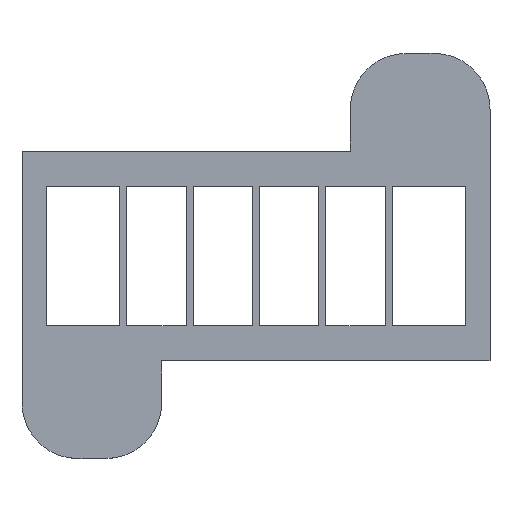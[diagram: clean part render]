
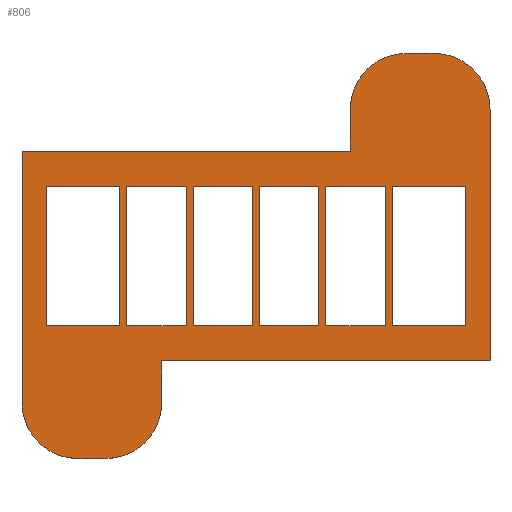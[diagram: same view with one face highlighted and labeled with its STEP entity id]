
A CAD part, top view. The second image highlights one B-rep face of the part: STEP entity #806.
In plain terms, the highlighted planar face has unit normal (0, 0, 1).
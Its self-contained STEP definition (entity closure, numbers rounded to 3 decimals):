
#16=FACE_BOUND('',#124,.T.);
#17=FACE_BOUND('',#125,.T.);
#18=FACE_BOUND('',#126,.T.);
#19=FACE_BOUND('',#127,.T.);
#20=FACE_BOUND('',#128,.T.);
#21=FACE_BOUND('',#129,.T.);
#52=PLANE('',#863);
#87=FACE_OUTER_BOUND('',#123,.T.);
#123=EDGE_LOOP('',(#732,#733,#734,#735,#736,#737,#738,#739,#740,#741,#742,
#743));
#124=EDGE_LOOP('',(#744,#745,#746,#747));
#125=EDGE_LOOP('',(#748,#749,#750,#751));
#126=EDGE_LOOP('',(#752,#753,#754,#755));
#127=EDGE_LOOP('',(#756,#757,#758,#759));
#128=EDGE_LOOP('',(#760,#761,#762,#763));
#129=EDGE_LOOP('',(#764,#765,#766,#767));
#136=LINE('',#1080,#242);
#140=LINE('',#1089,#246);
#144=LINE('',#1097,#250);
#151=LINE('',#1119,#257);
#155=LINE('',#1128,#261);
#159=LINE('',#1136,#265);
#182=LINE('',#1189,#288);
#185=LINE('',#1194,#291);
#188=LINE('',#1199,#294);
#191=LINE('',#1204,#297);
#194=LINE('',#1209,#300);
#197=LINE('',#1214,#303);
#199=LINE('',#1218,#305);
#201=LINE('',#1222,#307);
#203=LINE('',#1226,#309);
#205=LINE('',#1230,#311);
#213=LINE('',#1243,#319);
#215=LINE('',#1247,#321);
#217=LINE('',#1251,#323);
#219=LINE('',#1255,#325);
#220=LINE('',#1256,#326);
#221=LINE('',#1258,#327);
#223=LINE('',#1260,#329);
#225=LINE('',#1264,#331);
#227=LINE('',#1267,#333);
#229=LINE('',#1270,#335);
#230=LINE('',#1272,#336);
#231=LINE('',#1274,#337);
#232=LINE('',#1276,#338);
#233=LINE('',#1278,#339);
#234=LINE('',#1280,#340);
#235=LINE('',#1282,#341);
#242=VECTOR('',#884,10.);
#246=VECTOR('',#894,10.);
#250=VECTOR('',#900,10.);
#257=VECTOR('',#919,10.);
#261=VECTOR('',#929,10.);
#265=VECTOR('',#935,10.);
#288=VECTOR('',#970,10.);
#291=VECTOR('',#973,10.);
#294=VECTOR('',#976,10.);
#297=VECTOR('',#979,10.);
#300=VECTOR('',#982,10.);
#303=VECTOR('',#985,10.);
#305=VECTOR('',#989,10.);
#307=VECTOR('',#993,10.);
#309=VECTOR('',#997,10.);
#311=VECTOR('',#1001,10.);
#319=VECTOR('',#1013,10.);
#321=VECTOR('',#1017,10.);
#323=VECTOR('',#1021,10.);
#325=VECTOR('',#1025,10.);
#326=VECTOR('',#1026,10.);
#327=VECTOR('',#1027,10.);
#329=VECTOR('',#1029,10.);
#331=VECTOR('',#1031,10.);
#333=VECTOR('',#1033,10.);
#335=VECTOR('',#1037,10.);
#336=VECTOR('',#1040,10.);
#337=VECTOR('',#1043,10.);
#338=VECTOR('',#1046,10.);
#339=VECTOR('',#1049,10.);
#340=VECTOR('',#1052,10.);
#341=VECTOR('',#1055,10.);
#342=CIRCLE('',#822,8.);
#345=CIRCLE('',#828,8.);
#346=CIRCLE('',#832,8.);
#349=CIRCLE('',#838,8.);
#350=VERTEX_POINT('',#1060);
#351=VERTEX_POINT('',#1061);
#358=VERTEX_POINT('',#1079);
#359=VERTEX_POINT('',#1083);
#360=VERTEX_POINT('',#1087);
#363=VERTEX_POINT('',#1095);
#364=VERTEX_POINT('',#1099);
#365=VERTEX_POINT('',#1100);
#372=VERTEX_POINT('',#1118);
#373=VERTEX_POINT('',#1122);
#374=VERTEX_POINT('',#1126);
#377=VERTEX_POINT('',#1134);
#400=VERTEX_POINT('',#1186);
#401=VERTEX_POINT('',#1188);
#402=VERTEX_POINT('',#1191);
#403=VERTEX_POINT('',#1193);
#404=VERTEX_POINT('',#1196);
#405=VERTEX_POINT('',#1198);
#406=VERTEX_POINT('',#1201);
#407=VERTEX_POINT('',#1203);
#408=VERTEX_POINT('',#1206);
#409=VERTEX_POINT('',#1208);
#410=VERTEX_POINT('',#1211);
#411=VERTEX_POINT('',#1213);
#412=VERTEX_POINT('',#1217);
#413=VERTEX_POINT('',#1221);
#414=VERTEX_POINT('',#1225);
#415=VERTEX_POINT('',#1229);
#418=VERTEX_POINT('',#1241);
#419=VERTEX_POINT('',#1245);
#420=VERTEX_POINT('',#1249);
#421=VERTEX_POINT('',#1253);
#422=VERTEX_POINT('',#1257);
#423=VERTEX_POINT('',#1261);
#424=VERTEX_POINT('',#1263);
#425=VERTEX_POINT('',#1266);
#426=EDGE_CURVE('',#350,#351,#342,.T.);
#435=EDGE_CURVE('',#351,#358,#136,.T.);
#437=EDGE_CURVE('',#358,#359,#345,.T.);
#440=EDGE_CURVE('',#360,#350,#140,.T.);
#444=EDGE_CURVE('',#360,#363,#144,.T.);
#445=EDGE_CURVE('',#364,#365,#346,.T.);
#454=EDGE_CURVE('',#365,#372,#151,.T.);
#456=EDGE_CURVE('',#372,#373,#349,.T.);
#459=EDGE_CURVE('',#374,#364,#155,.T.);
#463=EDGE_CURVE('',#374,#377,#159,.T.);
#486=EDGE_CURVE('',#401,#400,#182,.T.);
#489=EDGE_CURVE('',#403,#402,#185,.T.);
#492=EDGE_CURVE('',#405,#404,#188,.T.);
#495=EDGE_CURVE('',#407,#406,#191,.T.);
#498=EDGE_CURVE('',#409,#408,#194,.T.);
#501=EDGE_CURVE('',#411,#410,#197,.T.);
#503=EDGE_CURVE('',#412,#409,#199,.T.);
#505=EDGE_CURVE('',#413,#407,#201,.T.);
#507=EDGE_CURVE('',#414,#405,#203,.T.);
#509=EDGE_CURVE('',#415,#401,#205,.T.);
#517=EDGE_CURVE('',#404,#418,#213,.T.);
#519=EDGE_CURVE('',#408,#419,#215,.T.);
#521=EDGE_CURVE('',#410,#420,#217,.T.);
#523=EDGE_CURVE('',#420,#421,#219,.T.);
#524=EDGE_CURVE('',#419,#412,#220,.T.);
#525=EDGE_CURVE('',#422,#413,#221,.T.);
#527=EDGE_CURVE('',#418,#414,#223,.T.);
#529=EDGE_CURVE('',#424,#423,#225,.T.);
#531=EDGE_CURVE('',#425,#415,#227,.T.);
#533=EDGE_CURVE('',#421,#411,#229,.T.);
#534=EDGE_CURVE('',#406,#422,#230,.T.);
#535=EDGE_CURVE('',#400,#425,#231,.T.);
#536=EDGE_CURVE('',#402,#424,#232,.T.);
#537=EDGE_CURVE('',#423,#403,#233,.T.);
#538=EDGE_CURVE('',#377,#359,#234,.T.);
#539=EDGE_CURVE('',#363,#373,#235,.T.);
#732=ORIENTED_EDGE('',*,*,#426,.F.);
#733=ORIENTED_EDGE('',*,*,#440,.F.);
#734=ORIENTED_EDGE('',*,*,#444,.T.);
#735=ORIENTED_EDGE('',*,*,#539,.T.);
#736=ORIENTED_EDGE('',*,*,#456,.F.);
#737=ORIENTED_EDGE('',*,*,#454,.F.);
#738=ORIENTED_EDGE('',*,*,#445,.F.);
#739=ORIENTED_EDGE('',*,*,#459,.F.);
#740=ORIENTED_EDGE('',*,*,#463,.T.);
#741=ORIENTED_EDGE('',*,*,#538,.T.);
#742=ORIENTED_EDGE('',*,*,#437,.F.);
#743=ORIENTED_EDGE('',*,*,#435,.F.);
#744=ORIENTED_EDGE('',*,*,#537,.T.);
#745=ORIENTED_EDGE('',*,*,#489,.T.);
#746=ORIENTED_EDGE('',*,*,#536,.T.);
#747=ORIENTED_EDGE('',*,*,#529,.T.);
#748=ORIENTED_EDGE('',*,*,#509,.T.);
#749=ORIENTED_EDGE('',*,*,#486,.T.);
#750=ORIENTED_EDGE('',*,*,#535,.T.);
#751=ORIENTED_EDGE('',*,*,#531,.T.);
#752=ORIENTED_EDGE('',*,*,#505,.T.);
#753=ORIENTED_EDGE('',*,*,#495,.T.);
#754=ORIENTED_EDGE('',*,*,#534,.T.);
#755=ORIENTED_EDGE('',*,*,#525,.T.);
#756=ORIENTED_EDGE('',*,*,#533,.T.);
#757=ORIENTED_EDGE('',*,*,#501,.T.);
#758=ORIENTED_EDGE('',*,*,#521,.T.);
#759=ORIENTED_EDGE('',*,*,#523,.T.);
#760=ORIENTED_EDGE('',*,*,#503,.T.);
#761=ORIENTED_EDGE('',*,*,#498,.T.);
#762=ORIENTED_EDGE('',*,*,#519,.T.);
#763=ORIENTED_EDGE('',*,*,#524,.T.);
#764=ORIENTED_EDGE('',*,*,#507,.T.);
#765=ORIENTED_EDGE('',*,*,#492,.T.);
#766=ORIENTED_EDGE('',*,*,#517,.T.);
#767=ORIENTED_EDGE('',*,*,#527,.T.);
#806=ADVANCED_FACE('',(#87,#16,#17,#18,#19,#20,#21),#52,.T.);
#822=AXIS2_PLACEMENT_3D('',#1062,#868,#869);
#828=AXIS2_PLACEMENT_3D('',#1084,#888,#889);
#832=AXIS2_PLACEMENT_3D('',#1101,#903,#904);
#838=AXIS2_PLACEMENT_3D('',#1123,#923,#924);
#863=AXIS2_PLACEMENT_3D('',#1283,#1056,#1057);
#868=DIRECTION('center_axis',(0.,0.,-1.));
#869=DIRECTION('ref_axis',(-0.707,0.707,0.));
#884=DIRECTION('',(1.,0.,0.));
#888=DIRECTION('center_axis',(0.,0.,-1.));
#889=DIRECTION('ref_axis',(0.707,0.707,0.));
#894=DIRECTION('',(0.,1.,0.));
#900=DIRECTION('',(-1.,0.,0.));
#903=DIRECTION('center_axis',(0.,0.,-1.));
#904=DIRECTION('ref_axis',(0.707,-0.707,0.));
#919=DIRECTION('',(-1.,0.,0.));
#923=DIRECTION('center_axis',(0.,0.,-1.));
#924=DIRECTION('ref_axis',(-0.707,-0.707,0.));
#929=DIRECTION('',(0.,-1.,0.));
#935=DIRECTION('',(1.,0.,0.));
#970=DIRECTION('',(1.,0.,0.));
#973=DIRECTION('',(1.,0.,0.));
#976=DIRECTION('',(1.,0.,0.));
#979=DIRECTION('',(1.,0.,0.));
#982=DIRECTION('',(1.,0.,0.));
#985=DIRECTION('',(1.,0.,0.));
#989=DIRECTION('',(0.,1.,0.));
#993=DIRECTION('',(0.,1.,0.));
#997=DIRECTION('',(0.,1.,0.));
#1001=DIRECTION('',(0.,1.,0.));
#1013=DIRECTION('',(0.,-1.,0.));
#1017=DIRECTION('',(0.,-1.,0.));
#1021=DIRECTION('',(0.,-1.,0.));
#1025=DIRECTION('',(-1.,0.,0.));
#1026=DIRECTION('',(-1.,0.,0.));
#1027=DIRECTION('',(-1.,0.,0.));
#1029=DIRECTION('',(-1.,0.,0.));
#1031=DIRECTION('',(-1.,0.,0.));
#1033=DIRECTION('',(-1.,0.,0.));
#1037=DIRECTION('',(0.,1.,0.));
#1040=DIRECTION('',(0.,-1.,0.));
#1043=DIRECTION('',(0.,-1.,0.));
#1046=DIRECTION('',(0.,-1.,0.));
#1049=DIRECTION('',(0.,1.,0.));
#1052=DIRECTION('',(0.,1.,0.));
#1055=DIRECTION('',(0.,-1.,0.));
#1056=DIRECTION('center_axis',(0.,0.,1.));
#1057=DIRECTION('ref_axis',(1.,0.,0.));
#1060=CARTESIAN_POINT('',(43.5,31.,0.));
#1061=CARTESIAN_POINT('',(51.5,39.,0.));
#1062=CARTESIAN_POINT('Origin',(51.5,31.,0.));
#1079=CARTESIAN_POINT('',(55.5,39.,0.));
#1080=CARTESIAN_POINT('',(63.5,39.,0.));
#1083=CARTESIAN_POINT('',(63.5,31.,0.));
#1084=CARTESIAN_POINT('Origin',(55.5,31.,0.));
#1087=CARTESIAN_POINT('',(43.5,25.,0.));
#1089=CARTESIAN_POINT('',(43.5,25.,0.));
#1095=CARTESIAN_POINT('',(-3.5,25.,0.));
#1097=CARTESIAN_POINT('',(63.5,25.,0.));
#1099=CARTESIAN_POINT('',(16.5,-11.,0.));
#1100=CARTESIAN_POINT('',(8.5,-19.,0.));
#1101=CARTESIAN_POINT('Origin',(8.5,-11.,0.));
#1118=CARTESIAN_POINT('',(4.5,-19.,0.));
#1119=CARTESIAN_POINT('',(-3.5,-19.,0.));
#1122=CARTESIAN_POINT('',(-3.5,-11.,0.));
#1123=CARTESIAN_POINT('Origin',(4.5,-11.,0.));
#1126=CARTESIAN_POINT('',(16.5,-5.,0.));
#1128=CARTESIAN_POINT('',(16.5,-5.,0.));
#1134=CARTESIAN_POINT('',(63.5,-5.,0.));
#1136=CARTESIAN_POINT('',(-3.5,-5.,0.));
#1186=CARTESIAN_POINT('',(60.,20.,0.));
#1188=CARTESIAN_POINT('',(49.5,20.,0.));
#1189=CARTESIAN_POINT('',(60.,20.,0.));
#1191=CARTESIAN_POINT('',(48.5,20.,0.));
#1193=CARTESIAN_POINT('',(40.,20.,0.));
#1194=CARTESIAN_POINT('',(48.5,20.,0.));
#1196=CARTESIAN_POINT('',(39.,20.,0.));
#1198=CARTESIAN_POINT('',(30.5,20.,0.));
#1199=CARTESIAN_POINT('',(39.,20.,0.));
#1201=CARTESIAN_POINT('',(29.5,20.,0.));
#1203=CARTESIAN_POINT('',(21.,20.,0.));
#1204=CARTESIAN_POINT('',(29.5,20.,0.));
#1206=CARTESIAN_POINT('',(20.,20.,0.));
#1208=CARTESIAN_POINT('',(11.5,20.,0.));
#1209=CARTESIAN_POINT('',(20.,20.,0.));
#1211=CARTESIAN_POINT('',(10.5,20.,0.));
#1213=CARTESIAN_POINT('',(0.,20.,0.));
#1214=CARTESIAN_POINT('',(10.5,20.,0.));
#1217=CARTESIAN_POINT('',(11.5,0.,0.));
#1218=CARTESIAN_POINT('',(11.5,20.,0.));
#1221=CARTESIAN_POINT('',(21.,0.,0.));
#1222=CARTESIAN_POINT('',(21.,20.,0.));
#1225=CARTESIAN_POINT('',(30.5,0.,0.));
#1226=CARTESIAN_POINT('',(30.5,20.,0.));
#1229=CARTESIAN_POINT('',(49.5,0.,0.));
#1230=CARTESIAN_POINT('',(49.5,20.,0.));
#1241=CARTESIAN_POINT('',(39.,0.,0.));
#1243=CARTESIAN_POINT('',(39.,0.,0.));
#1245=CARTESIAN_POINT('',(20.,0.,0.));
#1247=CARTESIAN_POINT('',(20.,0.,0.));
#1249=CARTESIAN_POINT('',(10.5,0.,0.));
#1251=CARTESIAN_POINT('',(10.5,0.,0.));
#1253=CARTESIAN_POINT('',(0.,0.,0.));
#1255=CARTESIAN_POINT('',(0.,0.,0.));
#1256=CARTESIAN_POINT('',(11.5,0.,0.));
#1257=CARTESIAN_POINT('',(29.5,0.,0.));
#1258=CARTESIAN_POINT('',(21.,0.,0.));
#1260=CARTESIAN_POINT('',(30.5,0.,0.));
#1261=CARTESIAN_POINT('',(40.,0.,0.));
#1263=CARTESIAN_POINT('',(48.5,0.,0.));
#1264=CARTESIAN_POINT('',(40.,0.,0.));
#1266=CARTESIAN_POINT('',(60.,0.,0.));
#1267=CARTESIAN_POINT('',(49.5,0.,0.));
#1270=CARTESIAN_POINT('',(0.,20.,0.));
#1272=CARTESIAN_POINT('',(29.5,0.,0.));
#1274=CARTESIAN_POINT('',(60.,0.,0.));
#1276=CARTESIAN_POINT('',(48.5,0.,0.));
#1278=CARTESIAN_POINT('',(40.,20.,0.));
#1280=CARTESIAN_POINT('',(63.5,-5.,0.));
#1282=CARTESIAN_POINT('',(-3.5,25.,0.));
#1283=CARTESIAN_POINT('Origin',(30.,10.,0.));
